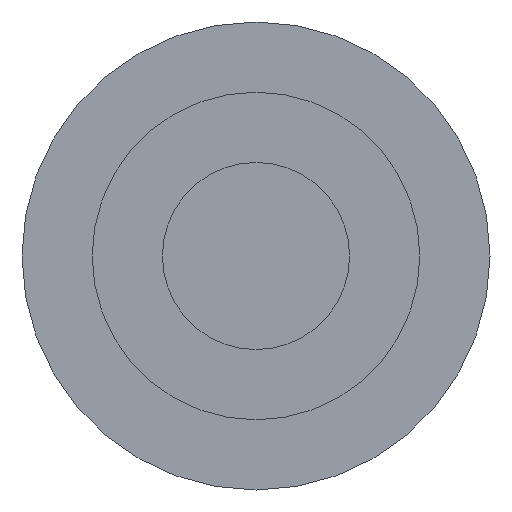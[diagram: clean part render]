
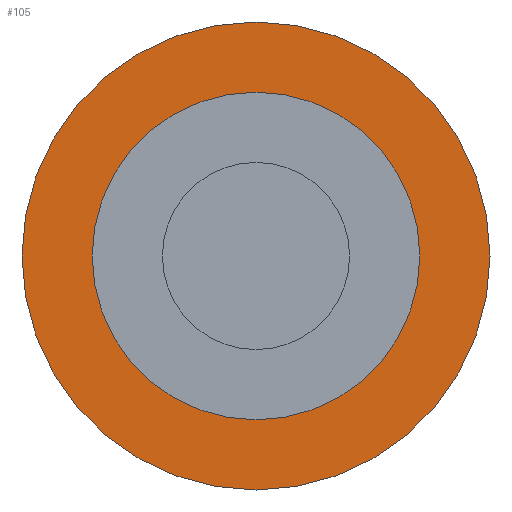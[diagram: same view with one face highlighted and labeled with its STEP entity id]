
A CAD part, front view. The second image highlights one B-rep face of the part: STEP entity #105.
In plain terms, the highlighted planar face has unit normal (0, -1, 0).
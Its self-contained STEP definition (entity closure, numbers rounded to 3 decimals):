
#22 = VERTEX_POINT('',#23);
#23 = CARTESIAN_POINT('',(10.,39.5,-16.));
#32 = CYLINDRICAL_SURFACE('',#33,10.);
#33 = AXIS2_PLACEMENT_3D('',#34,#35,#36);
#34 = CARTESIAN_POINT('',(0.,39.5,-16.));
#35 = DIRECTION('',(0.,-1.,0.));
#36 = DIRECTION('',(1.,0.,0.));
#79 = EDGE_CURVE('',#22,#22,#80,.T.);
#80 = SURFACE_CURVE('',#81,(#86,#93),.PCURVE_S1.);
#81 = CIRCLE('',#82,10.);
#82 = AXIS2_PLACEMENT_3D('',#83,#84,#85);
#83 = CARTESIAN_POINT('',(0.,39.5,-16.));
#84 = DIRECTION('',(-0.,1.,0.));
#85 = DIRECTION('',(1.,0.,0.));
#86 = PCURVE('',#32,#87);
#87 = DEFINITIONAL_REPRESENTATION('',(#88),#92);
#88 = LINE('',#89,#90);
#89 = CARTESIAN_POINT('',(-0.,0.));
#90 = VECTOR('',#91,1.);
#91 = DIRECTION('',(-1.,0.));
#92 = ( GEOMETRIC_REPRESENTATION_CONTEXT(2) 
PARAMETRIC_REPRESENTATION_CONTEXT() REPRESENTATION_CONTEXT('2D SPACE',''
  ) );
#93 = PCURVE('',#94,#99);
#94 = PLANE('',#95);
#95 = AXIS2_PLACEMENT_3D('',#96,#97,#98);
#96 = CARTESIAN_POINT('',(0.,39.5,-16.));
#97 = DIRECTION('',(0.,1.,0.));
#98 = DIRECTION('',(0.,0.,1.));
#99 = DEFINITIONAL_REPRESENTATION('',(#100),#104);
#100 = CIRCLE('',#101,10.);
#101 = AXIS2_PLACEMENT_2D('',#102,#103);
#102 = CARTESIAN_POINT('',(0.,0.));
#103 = DIRECTION('',(0.,1.));
#104 = ( GEOMETRIC_REPRESENTATION_CONTEXT(2) 
PARAMETRIC_REPRESENTATION_CONTEXT() REPRESENTATION_CONTEXT('2D SPACE',''
  ) );
#105 = ADVANCED_FACE('',(#106,#109),#94,.F.);
#106 = FACE_BOUND('',#107,.F.);
#107 = EDGE_LOOP('',(#108));
#108 = ORIENTED_EDGE('',*,*,#79,.T.);
#109 = FACE_BOUND('',#110,.F.);
#110 = EDGE_LOOP('',(#111));
#111 = ORIENTED_EDGE('',*,*,#112,.F.);
#112 = EDGE_CURVE('',#113,#113,#115,.T.);
#113 = VERTEX_POINT('',#114);
#114 = CARTESIAN_POINT('',(3.5,39.5,-16.));
#115 = SURFACE_CURVE('',#116,(#121,#128),.PCURVE_S1.);
#116 = CIRCLE('',#117,3.5);
#117 = AXIS2_PLACEMENT_3D('',#118,#119,#120);
#118 = CARTESIAN_POINT('',(0.,39.5,-16.));
#119 = DIRECTION('',(-0.,1.,0.));
#120 = DIRECTION('',(1.,0.,0.));
#121 = PCURVE('',#94,#122);
#122 = DEFINITIONAL_REPRESENTATION('',(#123),#127);
#123 = CIRCLE('',#124,3.5);
#124 = AXIS2_PLACEMENT_2D('',#125,#126);
#125 = CARTESIAN_POINT('',(0.,0.));
#126 = DIRECTION('',(0.,1.));
#127 = ( GEOMETRIC_REPRESENTATION_CONTEXT(2) 
PARAMETRIC_REPRESENTATION_CONTEXT() REPRESENTATION_CONTEXT('2D SPACE',''
  ) );
#128 = PCURVE('',#129,#134);
#129 = CYLINDRICAL_SURFACE('',#130,3.5);
#130 = AXIS2_PLACEMENT_3D('',#131,#132,#133);
#131 = CARTESIAN_POINT('',(0.,36.5,-16.));
#132 = DIRECTION('',(0.,-1.,0.));
#133 = DIRECTION('',(1.,0.,0.));
#134 = DEFINITIONAL_REPRESENTATION('',(#135),#139);
#135 = LINE('',#136,#137);
#136 = CARTESIAN_POINT('',(-0.,-3.));
#137 = VECTOR('',#138,1.);
#138 = DIRECTION('',(-1.,0.));
#139 = ( GEOMETRIC_REPRESENTATION_CONTEXT(2) 
PARAMETRIC_REPRESENTATION_CONTEXT() REPRESENTATION_CONTEXT('2D SPACE',''
  ) );
